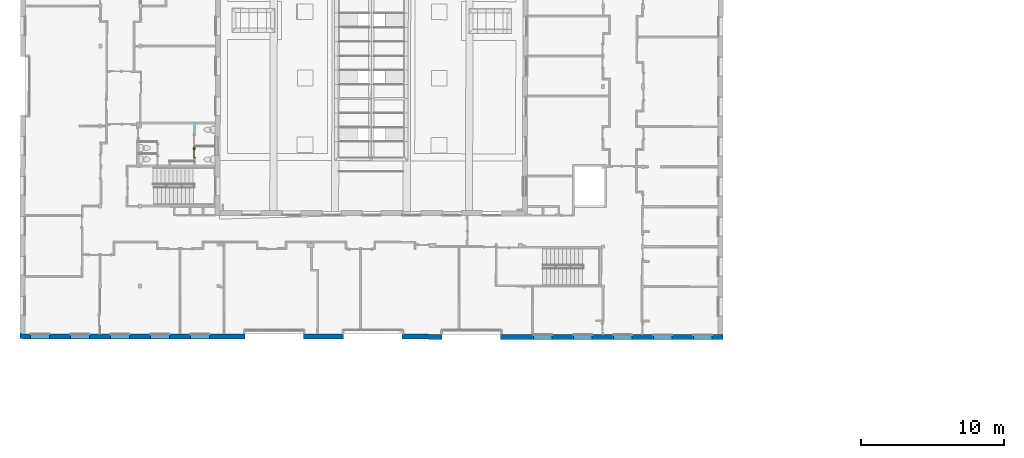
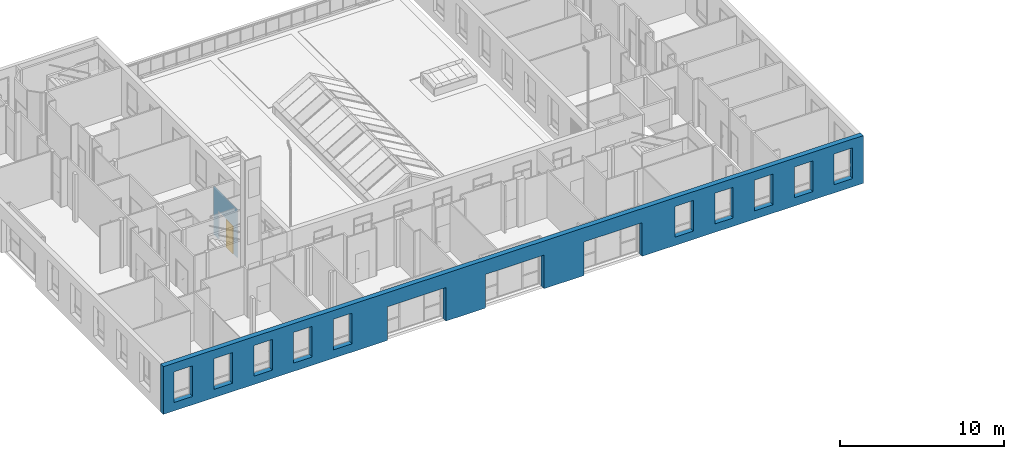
# One storey, part 92 of 101: 1 door, 1 wall, 2 openings, plus 1 element that does not belong to this part.
"""IFC2X3 building model written with IfcOpenShell, lengths in metres."""

import ifcopenshell
import ifcopenshell.guid

model = None  # the IFC model being written
_history = None  # IfcOwnerHistory: only IFC2X3 demands one
_inside = {}  # id of a spatial element -> (the spatial element, [elements in it])
_under = {}  # id of a project, library or spatial element -> (it, [spatial elements below it])
_declared = {}  # id of a project -> (the project, [libraries it declares])
_typed = {}  # id of a type object -> (the type object, [elements of that type])
_made_of = {}  # id of a material, layer set ... -> (it, [elements and type objects made of it])


def new_model(schema):
    """Start an empty IFC model of exactly this schema.

    Asked for "IFC4X3", IfcOpenShell would pick the latest addendum, in which some entities
    have other attributes; the version numbers below select the first issue.
    IFC2X3 requires an IfcOwnerHistory on every rooted entity: one is made here for all.
    """
    global model, _history
    if schema == "IFC4X3":
        model = ifcopenshell.file(schema_version=(4, 3, 0, 0))
    else:
        model = ifcopenshell.file(schema=schema)
    _inside.clear()
    _under.clear()
    _declared.clear()
    _typed.clear()
    _made_of.clear()
    _history = None
    if model.schema == "IFC2X3":
        org = make("IfcOrganization", Name="unknown")
        user = make(
            "IfcPersonAndOrganization",
            ThePerson=make("IfcPerson", FamilyName="unknown"),
            TheOrganization=org,
        )
        app = make(
            "IfcApplication",
            ApplicationDeveloper=org,
            Version="unknown",
            ApplicationFullName="unknown",
            ApplicationIdentifier="unknown",
        )
        _history = make(
            "IfcOwnerHistory",
            OwningUser=user,
            OwningApplication=app,
            ChangeAction="ADDED",
            CreationDate=0,
        )
    return model


def make(cls, **values):
    """One entity of the class cls with the attributes given. An attribute that is None is left unset."""
    return model.create_entity(
        cls, **{name: value for name, value in values.items() if value is not None}
    )


def entity(cls, *values):
    """Any entity or typed value of the class cls, its attributes in the order of the schema. None: left unset."""
    e = model.create_entity(cls)
    for i, value in enumerate(values):
        if value is not None:
            e[i] = value
    return e


def rooted(cls, **values):
    """An entity with a GlobalId (a new one), such as an element, a storey or a relation."""
    return make(cls, GlobalId=ifcopenshell.guid.new(), OwnerHistory=_history, **values)


def si_unit(unit_type, name, prefix=None):
    """IfcSIUnit, for example si_unit("LENGTHUNIT", "METRE", prefix="MILLI")."""
    return make("IfcSIUnit", UnitType=unit_type, Prefix=prefix, Name=name)


def converted_unit(unit_type, name, factor, base, dimensions=None, offset=None):
    """IfcConversionBasedUnit, such as the inch: factor (a typed value) times the base unit."""
    return make(
        "IfcConversionBasedUnit"
        if offset is None
        else "IfcConversionBasedUnitWithOffset",
        ConversionOffset=offset,
        Dimensions=None
        if dimensions is None
        else entity("IfcDimensionalExponents", *dimensions),
        UnitType=unit_type,
        Name=name,
        ConversionFactor=make(
            "IfcMeasureWithUnit", ValueComponent=factor, UnitComponent=base
        ),
    )


def derived_unit(unit_type, elements):
    """IfcDerivedUnit: a product of units, each with its exponent."""
    return make(
        "IfcDerivedUnit",
        Elements=[
            make("IfcDerivedUnitElement", Unit=unit, Exponent=power)
            for unit, power in elements
        ],
        UnitType=unit_type,
    )


def assignment(units):
    """IfcUnitAssignment: the units of a project."""
    return None if units is None else make("IfcUnitAssignment", Units=units)


def point(xyz):
    """IfcCartesianPoint."""
    return None if xyz is None else make("IfcCartesianPoint", Coordinates=xyz)


def direction(xyz):
    """IfcDirection."""
    return None if xyz is None else make("IfcDirection", DirectionRatios=xyz)


def frame(location, z_axis=None, x_axis=None):
    """IfcAxis2Placement3D, a coordinate frame: its origin and axes. An axis left out is left unset."""
    return make(
        "IfcAxis2Placement3D",
        Location=point(location),
        Axis=direction(z_axis),
        RefDirection=direction(x_axis),
    )


def frame_2d(location, x_axis=None):
    """IfcAxis2Placement2D, a coordinate frame in the plane: its origin and x axis."""
    return make(
        "IfcAxis2Placement2D", Location=point(location), RefDirection=direction(x_axis)
    )


def origin():
    """The frame at (0, 0, 0) with its axes left unset."""
    return frame((0.0, 0.0, 0.0))


def place(relative_to, where):
    """IfcLocalPlacement: puts the frame where relative to a parent placement (None: the world)."""
    return make(
        "IfcLocalPlacement", PlacementRelTo=relative_to, RelativePlacement=where
    )


def context(
    kind, dimensions, precision=None, world=None, true_north=None, identifier=None
):
    """IfcGeometricRepresentationContext, for example the 3D "Model" context."""
    return make(
        "IfcGeometricRepresentationContext",
        ContextIdentifier=identifier,
        ContextType=kind,
        CoordinateSpaceDimension=dimensions,
        Precision=precision,
        WorldCoordinateSystem=world,
        TrueNorth=true_north,
    )


def subcontext(parent, identifier, kind, view, scale=None):
    """IfcGeometricRepresentationSubContext, for example "Body" below "Model"."""
    return make(
        "IfcGeometricRepresentationSubContext",
        ContextIdentifier=identifier,
        ContextType=kind,
        ParentContext=parent,
        TargetScale=scale,
        TargetView=view,
    )


def project(units=None, contexts=None):
    """IfcProject with its units and contexts."""
    return rooted(
        "IfcProject",
        Name="project",
        RepresentationContexts=contexts,
        UnitsInContext=assignment(units),
    )


def spatial(cls, under=None, at=None, **own):
    """A site, building, storey or space (cls), placed at a placement, below another one or the project."""
    s = rooted(cls, ObjectPlacement=at, **own)
    if under is not None:
        _under.setdefault(under.id(), (under, []))[1].append(s)
    return s


def profile(cls, at=None, kind="AREA", **sizes):
    """A parametric profile (cls). Its sizes go by their IFC names, for example OverallWidth=200.0."""
    return make(cls, ProfileType=kind, Position=at, **sizes)


def rectangle(**sizes):
    """IfcRectangleProfileDef."""
    return profile("IfcRectangleProfileDef", **sizes)


def extrude(swept, where, along, depth):
    """IfcExtrudedAreaSolid: the profile swept, set in the frame where, extruded along a direction by depth."""
    return make(
        "IfcExtrudedAreaSolid",
        SweptArea=swept,
        Position=where,
        ExtrudedDirection=direction(along),
        Depth=depth,
    )


def faces_of(points, faces, orient=None, outer=None):
    """IfcFace entities. A face is a list of loops; a loop is a list of indices into points, from 0.

    orient and outer hold one flag for each loop. By default every Orientation is true, the
    first loop of a face is its IfcFaceOuterBound and the others are IfcFaceBound.
    """
    made = []
    for i, loops in enumerate(faces):
        bounds = []
        for j, loop in enumerate(loops):
            is_outer = j == 0 if outer is None else outer[i][j]
            bounds.append(
                make(
                    "IfcFaceOuterBound" if is_outer else "IfcFaceBound",
                    Bound=make("IfcPolyLoop", Polygon=[points[k] for k in loop]),
                    Orientation=True if orient is None else orient[i][j],
                )
            )
        made.append(make("IfcFace", Bounds=bounds))
    return made


def faceted_brep(points, faces, orient=None, outer=None, voids=None):
    """IfcFacetedBrep: a solid bounded by flat faces; with voids (closed shells), ...WithVoids."""
    shared = [point(p) for p in points]
    hull = make("IfcClosedShell", CfsFaces=faces_of(shared, faces, orient, outer))
    if voids is None:
        return make("IfcFacetedBrep", Outer=hull)
    return make(
        "IfcFacetedBrepWithVoids",
        Outer=hull,
        Voids=[
            make(cls, CfsFaces=faces_of(shared, fs, o, b)) for cls, fs, o, b in voids
        ],
    )


def shape(context_of_items, identifier, shape_type, items):
    """IfcShapeRepresentation: the items that make up one representation, for example the "Body"."""
    return make(
        "IfcShapeRepresentation",
        ContextOfItems=context_of_items,
        RepresentationIdentifier=identifier,
        RepresentationType=shape_type,
        Items=items,
    )


def source(mapping_origin, context_of_items, identifier, shape_type, items):
    """IfcRepresentationMap: a shape defined once, which mapped items show again and again."""
    return make(
        "IfcRepresentationMap",
        MappingOrigin=mapping_origin,
        MappedRepresentation=shape(context_of_items, identifier, shape_type, items),
    )


def transform(
    local_origin,
    x_axis=None,
    y_axis=None,
    z_axis=None,
    scale=None,
    scale2=None,
    scale3=None,
    uniform=True,
):
    """IfcCartesianTransformationOperator3D, or its non-uniform kind. x_axis, y_axis, z_axis: its Axis1, 2, 3."""
    if uniform:
        return make(
            "IfcCartesianTransformationOperator3D",
            Axis1=direction(x_axis),
            Axis2=direction(y_axis),
            LocalOrigin=point(local_origin),
            Scale=scale,
            Axis3=direction(z_axis),
        )
    return make(
        "IfcCartesianTransformationOperator3DnonUniform",
        Axis1=direction(x_axis),
        Axis2=direction(y_axis),
        LocalOrigin=point(local_origin),
        Scale=scale,
        Axis3=direction(z_axis),
        Scale2=scale2,
        Scale3=scale3,
    )


def mapped(mapping_source, mapping_target):
    """IfcMappedItem: shows the shape of a source again, moved by a transform."""
    return make(
        "IfcMappedItem", MappingSource=mapping_source, MappingTarget=mapping_target
    )


def material(Name=None, Category=None):
    """IfcMaterial."""
    return make("IfcMaterial", Name=Name, Category=Category)


def material_list(materials):
    """IfcMaterialList."""
    return make("IfcMaterialList", Materials=materials)


def layer(
    of_material, thickness, ventilated=None, Name=None, Category=None, Priority=None
):
    """IfcMaterialLayer: one layer of a wall or slab, of a material (None: an air gap)."""
    return make(
        "IfcMaterialLayer",
        Material=of_material,
        LayerThickness=thickness,
        IsVentilated=ventilated,
        Name=Name,
        Category=Category,
        Priority=Priority,
    )


def layer_set(layers, Name=None):
    """IfcMaterialLayerSet."""
    return make("IfcMaterialLayerSet", MaterialLayers=layers, LayerSetName=Name)


def layer_usage(for_layer_set, set_direction, sense, offset, extent=None):
    """IfcMaterialLayerSetUsage: how a layer set lies in its element."""
    return make(
        "IfcMaterialLayerSetUsage",
        ForLayerSet=for_layer_set,
        LayerSetDirection=set_direction,
        DirectionSense=sense,
        OffsetFromReferenceLine=offset,
        ReferenceExtent=extent,
    )


def made_of(thing, what):
    """Note that an element or type object is made of a material, layer set ...; save() writes the relation."""
    if what is not None:
        _made_of.setdefault(what.id(), (what, []))[1].append(thing)
    return thing


def type_object(cls, material=None, **own):
    """A type object (cls), such as IfcWallType, which elements share."""
    return made_of(rooted(cls, **own), material)


def type_shapes(of_type, sources):
    """Give a type object the sources (RepresentationMaps) that its elements show as mapped items."""
    of_type.RepresentationMaps = sources


def element(
    cls,
    number,
    at=None,
    inside=None,
    cuts=None,
    type_object=None,
    material=None,
    context=None,
    identifier="Body",
    shape_type=None,
    held_by="IfcProductDefinitionShape",
    body=None,
    shapes=None,
    **own,
):
    """One element of the class cls, such as IfcWall. Its Tag is "e" and its number.

    at: its placement. inside: the storey or other place that contains it. cuts: it is an
    opening in that element (IfcRelVoidsElement). A single representation is given by context,
    identifier, shape_type and body (its items); several are given by shapes. held_by: the class
    of the entity that holds the representations. save() writes the other relations.
    """
    e = rooted(cls, Tag="e%d" % number, ObjectPlacement=at, **own)
    if body is not None:
        shapes = [shape(context, identifier, shape_type, body)]
    if shapes is not None:
        e.Representation = make(held_by, Representations=shapes)
    if inside is not None:
        _inside.setdefault(inside.id(), (inside, []))[1].append(e)
    if cuts is not None:
        rooted(
            "IfcRelVoidsElement", RelatingBuildingElement=cuts, RelatedOpeningElement=e
        )
    if type_object is not None:
        _typed.setdefault(type_object.id(), (type_object, []))[1].append(e)
    return made_of(e, material)


def fill(opening, filler):
    """IfcRelFillsElement: the door or window that sits in an opening."""
    return rooted(
        "IfcRelFillsElement",
        RelatingOpeningElement=opening,
        RelatedBuildingElement=filler,
    )


def aggregate(whole, parts):
    """IfcRelAggregates: a whole, such as a stair, and the parts it consists of."""
    return rooted("IfcRelAggregates", RelatingObject=whole, RelatedObjects=parts)


def save(model, path):
    """Write the relations noted so far, then the file.

    IfcRelAggregates (storeys below a building ...), IfcRelContainedInSpatialStructure (elements
    in a storey), IfcRelDefinesByType, IfcRelAssociatesMaterial and IfcRelDeclares: one each for
    every whole, place, type object, material and project.
    """
    for whole, parts in _under.values():
        aggregate(whole, parts)
    for where, things in _inside.values():
        rooted(
            "IfcRelContainedInSpatialStructure",
            RelatedElements=things,
            RelatingStructure=where,
        )
    for kind, things in _typed.values():
        rooted("IfcRelDefinesByType", RelatedObjects=things, RelatingType=kind)
    for what, things in _made_of.values():
        rooted("IfcRelAssociatesMaterial", RelatedObjects=things, RelatingMaterial=what)
    for by, libraries in _declared.values():
        rooted("IfcRelDeclares", RelatingContext=by, RelatedDefinitions=libraries)
    model.write(path)


model = new_model("IFC2X3")

# Units and contexts
model_context = context("Model", 3, precision=1e-05, world=origin(), true_north=direction((6.123233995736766e-17, 1.0)))
body_context = subcontext(model_context, "Body", "Model", "MODEL_VIEW")
ifc_project = project(units=[si_unit("LENGTHUNIT", "METRE"), si_unit("AREAUNIT", "SQUARE_METRE"), converted_unit("PLANEANGLEUNIT", "DEGREE", entity("IfcPlaneAngleMeasure", 0.017453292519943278), si_unit("PLANEANGLEUNIT", "RADIAN"), dimensions=[0, 0, 0, 0, 0, 0, 0]), derived_unit("THERMALTRANSMITTANCEUNIT", [(si_unit("MASSUNIT", "GRAM", prefix="KILO"), 1), (si_unit("THERMODYNAMICTEMPERATUREUNIT", "KELVIN"), -1), (si_unit("TIMEUNIT", "SECOND"), -3)])], contexts=[model_context])

# Site, building, storey
site_placement = place(None, frame((1253.6752467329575, 2072.143113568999, 91.49999999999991), z_axis=(0.0, 0.0, 1.0), x_axis=(0.7237211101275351, 0.6900925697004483, 0.0)))
site = spatial("IfcSite", under=ifc_project, at=site_placement, Name="Surface", CompositionType="ELEMENT")
building_placement = place(site_placement, origin())
building = spatial("IfcBuilding", under=site, at=building_placement, CompositionType="ELEMENT")
storey_placement = place(building_placement, origin())
storey = spatial("IfcBuildingStorey", under=building, at=storey_placement, Name="0- Rdc", CompositionType="ELEMENT", Elevation=-5.764692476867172e-13)

# Wall
ifc_material_1 = material(Name="OMD_Béton blanc")
ifc_layer_1 = layer(ifc_material_1, 0.35)
ifc_layer_set_1 = layer_set([ifc_layer_1], Name="Mur de base:MUR 35")
wall_type_1 = type_object("IfcWallType", Name="Mur de base:MUR 35", PredefinedType="STANDARD", material=ifc_layer_set_1)
wall_1_placement = place(storey_placement, frame((179.42358522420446, -29.603421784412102, 0.0), z_axis=(0.0, 0.0, 1.0), x_axis=(-0.7228702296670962, 0.6909838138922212, 0.0)))
element("IfcWall", 1, at=wall_1_placement, inside=storey, type_object=wall_type_1, Name="Mur de base:MUR 35", ObjectType="Mur de base:MUR 35", context=body_context, shape_type="Brep", body=[
    faceted_brep([(0.7585219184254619, -0.1749999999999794, 0.6200000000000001), (0.7585219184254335, -0.17499999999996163, 2.8999999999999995), (2.0582178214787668, -0.17499999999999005, 2.8999999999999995), (2.058217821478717, -0.17499999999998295, 0.6200000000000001), (3.5499999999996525, -0.17499999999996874, 0.6200000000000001), (3.549999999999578, -0.1749999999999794, 2.8999999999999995), (4.849695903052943, -0.1749999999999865, 2.8999999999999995), (4.849695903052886, -0.17499999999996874, 0.6200000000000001), (6.349999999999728, -0.17499999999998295, 0.6200000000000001), (6.349999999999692, -0.17499999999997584, 2.8999999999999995), (7.649695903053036, -0.17499999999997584, 2.8999999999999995), (7.6496959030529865, -0.17499999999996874, 0.6200000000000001), (9.149999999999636, -0.1749999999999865, 0.6200000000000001), (9.149999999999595, -0.1749999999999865, 2.8999999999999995), (10.449695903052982, -0.1749999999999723, 2.8999999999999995), (10.449695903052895, -0.17499999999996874, 0.6200000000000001), (11.949999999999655, -0.1749999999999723, 0.6200000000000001), (11.949999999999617, -0.17499999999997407, 2.8999999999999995), (13.249695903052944, -0.17499999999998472, 2.8999999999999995), (13.249695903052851, -0.17499999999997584, 0.6200000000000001), (35.9499999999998, -0.17499999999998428, 0.6200000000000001), (35.94999999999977, -0.17499999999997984, 2.8999999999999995), (37.249695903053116, -0.1749999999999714, 2.8999999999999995), (37.24969590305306, -0.17499999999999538, 0.6200000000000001), (38.749999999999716, -0.1749999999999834, 0.6200000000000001), (38.7499999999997, -0.17499999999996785, 2.8999999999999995), (40.04969590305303, -0.17499999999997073, 2.8999999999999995), (40.049695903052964, -0.1749999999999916, 0.6200000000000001), (41.54999999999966, -0.17499999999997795, 0.6200000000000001), (41.54999999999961, -0.17499999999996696, 2.8999999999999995), (42.84969590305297, -0.17499999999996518, 2.8999999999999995), (42.84969590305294, -0.17499999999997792, 0.6200000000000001), (44.35043183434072, -0.17499999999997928, 0.6200000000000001), (44.350431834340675, -0.1749999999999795, 2.8999999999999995), (45.650127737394, -0.1749999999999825, 2.8999999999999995), (45.650127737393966, -0.17499999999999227, 0.6200000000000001), (47.14999999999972, -0.17499999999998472, 0.6200000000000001), (47.14999999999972, -0.17499999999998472, 2.8999999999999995), (48.44969590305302, -0.17499999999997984, 2.8999999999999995), (48.44969590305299, -0.17499999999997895, 0.6200000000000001), (49.198559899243, -0.1749999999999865, 3.5499999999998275), (48.84855988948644, -0.1749999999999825, 3.5499999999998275), (43.62499999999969, -0.1749999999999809, 3.5499999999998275), (43.5749999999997, -0.1749999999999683, 3.5499999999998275), (8.44999999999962, -0.1749999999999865, 3.5499999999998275), (8.349999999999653, -0.1749999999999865, 3.5499999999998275), (5.699999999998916, -0.17499999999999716, 3.5499999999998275), (5.599999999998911, -0.17499999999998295, 3.5499999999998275), (0.3500000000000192, -0.1749999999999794, 3.5499999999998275), (0.0, -0.17499999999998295, 3.5499999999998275), (0.0, -0.17499999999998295, 0.0), (0.3500000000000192, -0.1749999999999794, 0.0), (5.599999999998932, -0.17499999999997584, 0.0), (5.599999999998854, -0.17499999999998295, 2.0850000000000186), (5.699999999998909, -0.1749999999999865, 2.0850000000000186), (5.699999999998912, -0.1749999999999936, 0.0), (8.349999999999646, -0.1749999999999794, 0.0), (8.3499999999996, -0.17499999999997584, 2.0850000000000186), (8.44999999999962, -0.1749999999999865, 2.0850000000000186), (8.44999999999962, -0.1749999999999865, 0.0), (15.549999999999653, -0.17499999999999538, 0.0), (15.549999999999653, -0.17499999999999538, 2.4999999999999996), (19.649999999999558, -0.17499999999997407, 2.4999999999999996), (19.649999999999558, -0.17499999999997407, 0.0), (22.449999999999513, -0.1749999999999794, 0.0), (22.449999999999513, -0.1749999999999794, 2.4999999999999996), (26.5499999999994, -0.17499999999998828, 2.4999999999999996), (26.5499999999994, -0.17499999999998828, 0.0), (29.34999999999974, -0.17499999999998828, 0.0), (29.34999999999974, -0.17499999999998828, 2.4999999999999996), (33.44999999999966, -0.17499999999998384, 2.4999999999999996), (33.44999999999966, -0.17499999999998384, 0.0), (43.5749999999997, -0.1749999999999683, 0.0), (43.62499999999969, -0.1749999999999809, 0.0), (48.84855988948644, -0.1749999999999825, 0.0), (49.198559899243, -0.1749999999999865, 0.0), (0.7585219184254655, 0.17500000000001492, 2.8999999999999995), (0.7585219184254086, 0.17500000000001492, 0.6200000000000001), (2.0582178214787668, 0.17500000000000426, 0.6200000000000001), (2.058217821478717, 0.17499999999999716, 2.8999999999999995), (3.549999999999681, 0.17500000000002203, 2.8999999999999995), (3.549999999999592, 0.17500000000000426, 0.6200000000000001), (4.849695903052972, 0.17500000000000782, 0.6200000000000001), (4.849695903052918, 0.17500000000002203, 2.8999999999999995), (6.349999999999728, 0.17500000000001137, 2.8999999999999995), (6.3499999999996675, 0.17500000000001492, 0.6200000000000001), (7.649695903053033, 0.17500000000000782, 0.6200000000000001), (7.649695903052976, 0.17500000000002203, 2.8999999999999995), (9.149999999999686, 0.17500000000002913, 2.8999999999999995), (9.149999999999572, 0.17500000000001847, 0.6200000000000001), (10.449695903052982, 0.17500000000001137, 0.6200000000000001), (10.449695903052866, 0.1750000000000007, 2.8999999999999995), (11.949999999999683, 0.1750000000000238, 2.8999999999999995), (11.949999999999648, 0.17500000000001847, 0.6200000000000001), (13.249695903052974, 0.17500000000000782, 0.6200000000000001), (13.249695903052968, 0.17500000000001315, 2.8999999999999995), (35.949999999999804, 0.17500000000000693, 2.8999999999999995), (35.949999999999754, 0.17500000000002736, 0.6200000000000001), (37.24969590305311, 0.1750000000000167, 0.6200000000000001), (37.24969590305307, 0.17500000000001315, 2.8999999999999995), (38.74999999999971, 0.17500000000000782, 2.8999999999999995), (38.74999999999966, 0.17500000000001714, 0.6200000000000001), (40.049695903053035, 0.17500000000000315, 0.6200000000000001), (40.04969590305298, 0.17500000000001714, 2.8999999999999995), (41.549999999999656, 0.17500000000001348, 2.8999999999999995), (41.54999999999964, 0.1750000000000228, 0.6200000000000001), (42.84969590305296, 0.17500000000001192, 0.6200000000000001), (42.8496959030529, 0.17500000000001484, 2.8999999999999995), (44.35043183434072, 0.17500000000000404, 2.8999999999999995), (44.350431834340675, 0.17500000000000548, 0.6200000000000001), (45.65012773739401, 0.17499999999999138, 0.6200000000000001), (45.65012773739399, 0.17500000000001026, 2.8999999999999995), (47.14999999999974, 0.17500000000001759, 2.8999999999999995), (47.14999999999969, 0.17500000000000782, 0.6200000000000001), (48.449695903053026, 0.17500000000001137, 0.6200000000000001), (48.44969590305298, 0.17500000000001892, 2.8999999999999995), (0.0, 0.17500000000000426, 3.5499999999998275), (49.198642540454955, 0.1750000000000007, 3.5499999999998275), (49.19864254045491, 0.1750000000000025, 0.0), (33.44999999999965, 0.17500000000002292, 0.0), (33.44999999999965, 0.17500000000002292, 2.4999999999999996), (29.34999999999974, 0.1749999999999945, 2.4999999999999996), (29.34999999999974, 0.1749999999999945, 0.0), (26.5499999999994, 0.17500000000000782, 0.0), (26.5499999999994, 0.17500000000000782, 2.4999999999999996), (22.449999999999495, 0.17500000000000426, 2.4999999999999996), (22.449999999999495, 0.17500000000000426, 0.0), (19.649999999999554, 0.1750000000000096, 0.0), (19.649999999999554, 0.1750000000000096, 2.4999999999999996), (15.549999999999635, 0.17500000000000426, 2.4999999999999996), (15.549999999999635, 0.17500000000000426, 0.0), (0.3500000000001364, 0.17500000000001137, 0.0), (0.0, 0.17500000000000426, 0.0), (5.5999999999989, -0.1624999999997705, 0.0), (5.5999999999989, -0.1624999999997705, 2.0850000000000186), (5.699999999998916, -0.1624999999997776, 2.0850000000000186), (5.699999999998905, -0.1624999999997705, 0.0), (8.349999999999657, -0.16249999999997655, 0.0), (8.349999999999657, -0.16249999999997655, 2.0850000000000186), (8.44999999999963, -0.1624999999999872, 2.0850000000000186), (8.44999999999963, -0.1624999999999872, 0.0)], [[[0, 1, 2, 3], [4, 5, 6, 7], [8, 9, 10, 11], [12, 13, 14, 15], [16, 17, 18, 19], [20, 21, 22, 23], [24, 25, 26, 27], [28, 29, 30, 31], [32, 33, 34, 35], [36, 37, 38, 39], [40, 41, 42, 43, 44, 45, 46, 47, 48, 49, 50, 51, 52, 53, 54, 55, 56, 57, 58, 59, 60, 61, 62, 63, 64, 65, 66, 67, 68, 69, 70, 71, 72, 73, 74, 75]], [[76, 77, 78, 79], [80, 81, 82, 83], [84, 85, 86, 87], [88, 89, 90, 91], [92, 93, 94, 95], [96, 97, 98, 99], [100, 101, 102, 103], [104, 105, 106, 107], [108, 109, 110, 111], [112, 113, 114, 115], [116, 117, 118, 119, 120, 121, 122, 123, 124, 125, 126, 127, 128, 129, 130, 131, 132]], [[49, 48, 47, 46, 45, 44, 43, 42, 41, 40, 117, 116]], [[50, 49, 116, 132]], [[40, 75, 118, 117]], [[133, 134, 53, 52]], [[135, 136, 55, 54]], [[134, 135, 54, 53]], [[134, 133, 136, 135]], [[137, 138, 57, 56]], [[139, 140, 59, 58]], [[138, 139, 58, 57]], [[138, 137, 140, 139]], [[0, 77, 76, 1]], [[1, 76, 79, 2]], [[2, 79, 78, 3]], [[77, 0, 3, 78]], [[4, 81, 80, 5]], [[5, 80, 83, 6]], [[6, 83, 82, 7]], [[81, 4, 7, 82]], [[8, 85, 84, 9]], [[9, 84, 87, 10]], [[10, 87, 86, 11]], [[85, 8, 11, 86]], [[12, 89, 88, 13]], [[13, 88, 91, 14]], [[14, 91, 90, 15]], [[89, 12, 15, 90]], [[16, 93, 92, 17]], [[17, 92, 95, 18]], [[18, 95, 94, 19]], [[93, 16, 19, 94]], [[20, 97, 96, 21]], [[21, 96, 99, 22]], [[22, 99, 98, 23]], [[97, 20, 23, 98]], [[24, 101, 100, 25]], [[25, 100, 103, 26]], [[26, 103, 102, 27]], [[101, 24, 27, 102]], [[28, 105, 104, 29]], [[29, 104, 107, 30]], [[30, 107, 106, 31]], [[105, 28, 31, 106]], [[32, 109, 108, 33]], [[33, 108, 111, 34]], [[34, 111, 110, 35]], [[109, 32, 35, 110]], [[36, 113, 112, 37]], [[37, 112, 115, 38]], [[38, 115, 114, 39]], [[113, 36, 39, 114]], [[69, 68, 122, 121]], [[71, 70, 120, 119]], [[118, 75, 74, 73, 72, 71, 119]], [[122, 68, 67, 123]], [[69, 121, 120, 70]], [[65, 64, 126, 125]], [[67, 66, 124, 123]], [[126, 64, 63, 127]], [[65, 125, 124, 66]], [[61, 60, 130, 129]], [[63, 62, 128, 127]], [[50, 132, 131, 130, 60, 59, 140, 137, 56, 55, 136, 133, 52, 51]], [[61, 129, 128, 62]]], outer=[[False, False, False, False, False, False, False, False, False, False, True], [False, False, False, False, False, False, False, False, False, False, True], [True], [True], [True], [True], [True], [True], [True], [True], [True], [True], [True], [True], [True], [True], [True], [True], [True], [True], [True], [True], [True], [True], [True], [True], [True], [True], [True], [True], [True], [True], [True], [True], [True], [True], [True], [True], [True], [True], [True], [True], [True], [True], [True], [True], [True], [True], [True], [True], [True], [True], [True], [True], [True], [True], [True], [True], [True], [True], [True], [True], [True], [True], [True], [True]]),
])

# Wall, openings, door
ifc_layer_2 = layer(ifc_material_1, 0.07)
ifc_layer_set_2 = layer_set([ifc_layer_2], Name="Mur de base:MUR 7")
ifc_layer_usage = layer_usage(ifc_layer_set_2, "AXIS2", "NEGATIVE", 0.035)
wall_type_2 = type_object("IfcWallType", Name="Mur de base:MUR 7", PredefinedType="STANDARD", material=ifc_layer_set_2)
wall_2_placement = place(storey_placement, frame((162.9738427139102, 6.698399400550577, 0.0), z_axis=(0.0, 0.0, 1.0), x_axis=(-0.6909838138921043, -0.7228702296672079, 0.0)))
wall_2 = element("IfcWallStandardCase", 2, at=wall_2_placement, inside=storey, type_object=wall_type_2, material=ifc_layer_usage, Name="Mur de base:MUR 7", ObjectType="Mur de base:MUR 7", context=body_context, shape_type="SweptSolid", body=[
    extrude(rectangle(XDim=2.884999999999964, YDim=0.06999999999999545, at=frame_2d((1.442499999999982, 1.6202317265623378e-15), x_axis=(-1.0, 0.0))), origin(), (0.0, 0.0, 1.0), 3.5499999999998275),
])
opening_1_placement = place(wall_2_placement, frame((1.5275000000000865, 0.0349999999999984, 0.0)))
element("IfcOpeningElement", 3, at=opening_1_placement, cuts=wall_2, Name="OMD_Porte 1V tunnel:80x204:1", ObjectType="Opening", context=body_context, shape_type="SweptSolid", body=[
    extrude(rectangle(XDim=2.0850000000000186, YDim=0.9349999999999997, at=frame_2d((1.0425000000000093, 0.46749999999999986), x_axis=(1.0, 0.0))), frame((0.0, 0.0, 0.0), z_axis=(0.0, -1.0, 0.0), x_axis=(0.0, 0.0, 1.0)), (0.0, 0.0, 1.0), 0.06999999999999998),
])
opening_2_placement = place(wall_2_placement, frame((2.402500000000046, 0.03500000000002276, 0.0)))
opening_2 = element("IfcOpeningElement", 4, at=opening_2_placement, cuts=wall_2, Name="OMD_Porte 1V tunnel:70X204:1", ObjectType="Opening", context=body_context, shape_type="SweptSolid", body=[
    extrude(rectangle(XDim=2.0850000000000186, YDim=0.8349999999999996, at=frame_2d((1.0425000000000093, 0.4174999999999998), x_axis=(1.0, 0.0))), frame((0.0, 0.0, 0.0), z_axis=(0.0, -1.0, 0.0), x_axis=(0.0, 0.0, 1.0)), (0.0, 0.0, 1.0), 0.06999999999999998),
])
ifc_material_2 = material(Name="Porte - Poignée")
ifc_material_3 = material(Name="OMD_Peinture mur")
ifc_material_4 = material(Name="OMD_BLEU T1 23 25-SIKKKENS")
ifc_material_list = material_list([ifc_material_2, ifc_material_3, ifc_material_4])
door_style = type_object("IfcDoorStyle", Name="OMD_Porte 1V tunnel:70X204", ConstructionType="NOTDEFINED", OperationType="NOTDEFINED", ParameterTakesPrecedence=False, Sizeable=False, material=ifc_material_list)
shared_shape = source(origin(), body_context, "Body", "Brep", [
    faceted_brep([(0.21297470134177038, 0.0050000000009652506, 1.0077804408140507), (0.2090000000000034, 0.0050000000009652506, 1.0069999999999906), (0.20899999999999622, 0.0050000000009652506, 0.9929999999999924), (0.21297470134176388, 0.0050000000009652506, 0.9922195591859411), (0.21702529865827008, 0.0050000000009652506, 0.9922195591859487), (0.2210000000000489, 0.0050000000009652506, 0.9930000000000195), (0.2210000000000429, 0.0050000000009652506, 1.0069999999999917), (0.21702529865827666, 0.0050000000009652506, 1.007780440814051), (0.2210000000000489, 0.027485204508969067, 0.9930000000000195), (0.221000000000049, 0.027485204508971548, 1.0069999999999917), (0.2170252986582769, 0.02913157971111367, 1.007780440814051), (0.23083890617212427, 0.04294518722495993, 1.007780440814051), (0.22916109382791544, 0.046995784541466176, 1.0077804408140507), (0.21297470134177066, 0.03080939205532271, 1.0077804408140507), (0.32068474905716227, 0.03646731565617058, 1.0077804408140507), (0.3235489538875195, 0.039331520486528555, 1.0077804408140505), (0.31588468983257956, 0.04699578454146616, 1.0077804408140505), (0.31420687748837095, 0.0429451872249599, 1.0077804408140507), (0.20900000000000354, 0.03245576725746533, 1.0069999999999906), (0.20900000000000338, 0.03245576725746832, 0.9929999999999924), (0.21297470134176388, 0.03080939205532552, 0.9922195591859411), (0.2291610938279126, 0.046995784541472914, 0.9922195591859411), (0.23083890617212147, 0.04294518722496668, 0.9922195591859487), (0.21702529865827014, 0.029131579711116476, 0.9922195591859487), (0.3235489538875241, 0.03933152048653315, 0.9922195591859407), (0.3206847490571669, 0.0364673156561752, 0.9922195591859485), (0.3142068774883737, 0.04294518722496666, 0.9922195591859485), (0.31588468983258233, 0.0469957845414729, 0.9922195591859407), (0.2324852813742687, 0.0389704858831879, 0.9930000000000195), (0.23248528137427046, 0.03897048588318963, 1.0069999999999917), (0.2275147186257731, 0.050970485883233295, 1.0069999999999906), (0.22751471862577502, 0.05097048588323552, 0.9929999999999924), (0.2725228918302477, 0.038970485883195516, 0.9930000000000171), (0.3125605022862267, 0.03897048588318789, 0.9930000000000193), (0.31256050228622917, 0.038970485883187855, 1.0069999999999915), (0.2725228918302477, 0.0389704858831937, 1.0069999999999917), (0.272522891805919, 0.045124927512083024, 1.0078781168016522), (0.31753106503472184, 0.050970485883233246, 1.0069999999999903), (0.27760057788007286, 0.050970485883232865, 1.0069999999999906), (0.3175310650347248, 0.05097048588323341, 0.9929999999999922), (0.26744520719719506, 0.0509704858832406, 0.9929999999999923), (0.2725228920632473, 0.045124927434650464, 0.9921218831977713), (0.31787421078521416, 0.03365677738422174, 0.9930000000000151), (0.32635949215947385, 0.04214205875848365, 0.99299999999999), (0.3263594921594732, 0.04214205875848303, 1.0069999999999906), (0.3178742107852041, 0.03365677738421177, 1.0069999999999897)], [[[0, 1, 2, 3, 4, 5, 6, 7]], [[6, 5, 8, 9]], [[9, 10, 7, 6]], [[10, 11, 12, 13, 0, 7]], [[14, 15, 16, 17]], [[13, 18, 1, 0]], [[2, 1, 18, 19]], [[19, 20, 3, 2]], [[20, 21, 22, 23, 4, 3]], [[24, 25, 26, 27]], [[23, 8, 5, 4]], [[9, 8, 28, 29]], [[29, 11, 10, 9]], [[12, 30, 18, 13]], [[19, 18, 30, 31]], [[31, 21, 20, 19]], [[22, 28, 8, 23]], [[29, 28, 32, 33, 34, 35]], [[11, 35, 36]], [[16, 37, 38]], [[30, 12, 38]], [[38, 12, 36]], [[36, 35, 17]], [[17, 16, 36]], [[35, 11, 29]], [[34, 17, 35]], [[11, 36, 12]], [[38, 36, 16]], [[31, 30, 38, 37, 39, 40]], [[40, 41, 21]], [[41, 40, 27]], [[21, 31, 40]], [[39, 27, 40]], [[41, 32, 22]], [[22, 21, 41]], [[26, 32, 41]], [[28, 22, 32]], [[32, 26, 33]], [[26, 41, 27]], [[42, 25, 24, 43, 44, 15, 14, 45]], [[34, 33, 42, 45]], [[45, 14, 17, 34]], [[15, 44, 37, 16]], [[39, 37, 44, 43]], [[43, 24, 27, 39]], [[25, 42, 33, 26]]]),
    faceted_brep([(0.21297470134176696, -0.034999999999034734, 1.0077804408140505), (0.21702529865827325, -0.034999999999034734, 1.007780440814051), (0.22100000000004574, -0.034999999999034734, 1.006999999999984), (0.221000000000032, -0.034999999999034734, 0.9930000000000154), (0.21702529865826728, -0.034999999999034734, 0.9922195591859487), (0.21297470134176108, -0.034999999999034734, 0.992219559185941), (0.2090000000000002, -0.034999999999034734, 0.992999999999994), (0.20900000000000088, -0.034999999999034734, 1.0069999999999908), (0.2090000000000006, -0.06265095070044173, 1.0069999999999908), (0.21297470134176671, -0.061004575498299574, 1.0077804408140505), (0.22902358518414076, -0.0770534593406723, 1.0077804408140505), (0.23070139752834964, -0.07300286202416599, 1.007780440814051), (0.21702529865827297, -0.059326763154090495, 1.007780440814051), (0.32352181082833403, -0.06938919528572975, 1.0077804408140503), (0.32065760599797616, -0.06652499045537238, 1.0077804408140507), (0.314179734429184, -0.07300286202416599, 1.0077804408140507), (0.31585754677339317, -0.0770534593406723, 1.0077804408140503), (0.22100000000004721, -0.057680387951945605, 1.0069999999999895), (0.22100000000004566, -0.057680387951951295, 0.9930000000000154), (0.21702529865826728, -0.059326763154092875, 0.9922195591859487), (0.23070139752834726, -0.07300286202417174, 0.9922195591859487), (0.22902358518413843, -0.07705345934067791, 0.992219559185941), (0.21297470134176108, -0.061004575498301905, 0.992219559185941), (0.3206576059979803, -0.0665249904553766, 0.9922195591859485), (0.3235218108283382, -0.0693891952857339, 0.9922195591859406), (0.31585754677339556, -0.07705345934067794, 0.9922195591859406), (0.31417973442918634, -0.07300286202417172, 0.9922195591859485), (0.2089999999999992, -0.0626509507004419, 0.9929999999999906), (0.22737720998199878, -0.08102816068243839, 1.0069999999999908), (0.2323477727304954, -0.06902816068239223, 1.0069999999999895), (0.23234777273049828, -0.06902816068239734, 0.9930000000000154), (0.2273772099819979, -0.08102816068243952, 0.9929999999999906), (0.2673076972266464, -0.0810281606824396, 1.0069999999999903), (0.2724405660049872, -0.07518280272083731, 1.0078781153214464), (0.31750392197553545, -0.08102816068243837, 1.0069999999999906), (0.27244056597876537, -0.06902816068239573, 1.0069999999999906), (0.312533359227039, -0.06902816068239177, 1.0069999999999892), (0.31253335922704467, -0.06902816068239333, 0.9930000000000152), (0.2724405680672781, -0.06902816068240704, 0.9930000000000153), (0.2724405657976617, -0.0751828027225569, 0.9921218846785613), (0.3175039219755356, -0.0810281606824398, 0.9929999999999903), (0.2775734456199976, -0.0810281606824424, 0.9929999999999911), (0.3178470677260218, -0.06371445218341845, 1.0069999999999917), (0.32633234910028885, -0.07219973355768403, 1.0069999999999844), (0.32633234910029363, -0.07219973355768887, 0.9929999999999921), (0.31784706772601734, -0.06371445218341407, 0.9930000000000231)], [[[0, 1, 2, 3, 4, 5, 6, 7]], [[8, 9, 0, 7]], [[9, 10, 11, 12, 1, 0]], [[13, 14, 15, 16]], [[12, 17, 2, 1]], [[3, 2, 17, 18]], [[18, 19, 4, 3]], [[19, 20, 21, 22, 5, 4]], [[23, 24, 25, 26]], [[22, 27, 6, 5]], [[7, 6, 27, 8]], [[28, 10, 9, 8]], [[11, 29, 17, 12]], [[18, 17, 29, 30]], [[30, 20, 19, 18]], [[21, 31, 27, 22]], [[8, 27, 31, 28]], [[32, 33, 10]], [[33, 32, 16]], [[10, 28, 32]], [[34, 16, 32]], [[33, 35, 11]], [[11, 10, 33]], [[15, 35, 33]], [[29, 11, 35]], [[35, 15, 36]], [[15, 33, 16]], [[30, 29, 35, 36, 37, 38]], [[20, 38, 39]], [[25, 40, 41]], [[31, 21, 41]], [[41, 21, 39]], [[39, 38, 26]], [[26, 25, 39]], [[38, 20, 30]], [[37, 26, 38]], [[20, 39, 21]], [[41, 39, 25]], [[28, 31, 41, 40, 34, 32]], [[42, 14, 13, 43, 44, 24, 23, 45]], [[43, 13, 16, 34]], [[14, 42, 36, 15]], [[37, 36, 42, 45]], [[45, 23, 26, 37]], [[24, 44, 40, 25]], [[34, 40, 44, 43]]]),
    faceted_brep([(0.2253527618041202, 0.0, 0.8660039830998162), (0.23500000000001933, 0.0, 0.8700000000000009), (0.23500000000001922, 0.0, 1.0800000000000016), (0.22535276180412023, 0.0, 1.0839960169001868), (0.2150000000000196, 0.0, 1.0853589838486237), (0.20464723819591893, 0.0, 1.0839960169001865), (0.19500000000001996, 0.0, 1.0800000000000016), (0.1950000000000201, 0.0, 0.8700000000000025), (0.2046472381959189, 0.0, 0.866003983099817), (0.21500000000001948, 0.0, 0.8646410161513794), (0.22535276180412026, 0.005000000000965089, 1.0839960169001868), (0.23500000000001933, 0.005000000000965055, 1.0800000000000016), (0.23500000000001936, 0.005000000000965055, 0.8700000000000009), (0.2253527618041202, 0.005000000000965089, 0.8660039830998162), (0.2150000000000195, 0.005000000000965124, 0.8646410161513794), (0.20464723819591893, 0.005000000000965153, 0.866003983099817), (0.19500000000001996, 0.005000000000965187, 0.8700000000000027), (0.19500000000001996, 0.005000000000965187, 1.0800000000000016), (0.20464723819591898, 0.005000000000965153, 1.0839960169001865), (0.21500000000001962, 0.005000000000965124, 1.0853589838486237)], [[[0, 1, 2, 3, 4, 5, 6, 7, 8, 9]], [[10, 11, 12, 13, 14, 15, 16, 17, 18, 19]], [[11, 10, 3, 2]], [[3, 10, 19, 4]], [[19, 18, 5, 4]], [[18, 17, 6, 5]], [[7, 6, 17, 16]], [[16, 15, 8, 7]], [[8, 15, 14, 9]], [[14, 13, 0, 9]], [[13, 12, 1, 0]], [[2, 1, 12, 11]]]),
    faceted_brep([(0.22535276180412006, -0.03499999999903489, 0.8660039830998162), (0.23500000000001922, -0.03499999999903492, 0.8700000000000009), (0.23500000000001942, -0.03499999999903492, 1.0800000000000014), (0.2253527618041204, -0.03499999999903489, 1.0839960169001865), (0.21500000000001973, -0.03499999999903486, 1.0853589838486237), (0.20464723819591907, -0.034999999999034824, 1.0839960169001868), (0.19500000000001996, -0.034999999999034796, 1.0800000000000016), (0.19500000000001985, -0.034999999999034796, 0.8700000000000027), (0.2046472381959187, -0.034999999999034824, 0.8660039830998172), (0.21500000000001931, -0.03499999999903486, 0.8646410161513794), (0.2253527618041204, -0.0299999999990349, 1.0839960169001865), (0.23500000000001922, -0.029999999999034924, 1.0800000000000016), (0.23500000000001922, -0.029999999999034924, 0.8700000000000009), (0.22535276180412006, -0.0299999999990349, 0.8660039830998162), (0.21500000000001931, -0.029999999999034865, 0.8646410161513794), (0.2046472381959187, -0.02999999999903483, 0.8660039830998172), (0.19500000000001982, -0.029999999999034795, 0.8700000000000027), (0.19500000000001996, -0.029999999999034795, 1.0800000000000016), (0.20464723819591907, -0.02999999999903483, 1.0839960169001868), (0.21500000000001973, -0.029999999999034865, 1.0853589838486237)], [[[0, 1, 2, 3, 4, 5, 6, 7, 8, 9]], [[10, 11, 12, 13, 14, 15, 16, 17, 18, 19]], [[16, 15, 8, 7]], [[8, 15, 14, 9]], [[14, 13, 0, 9]], [[13, 12, 1, 0]], [[2, 1, 12, 11]], [[11, 10, 3, 2]], [[3, 10, 19, 4]], [[19, 18, 5, 4]], [[18, 17, 6, 5]], [[7, 6, 17, 16]]]),
    faceted_brep([(0.14500000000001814, 0.0, 0.0), (0.8900000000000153, 0.0, 0.0), (0.8900000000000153, -0.029999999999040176, 0.0), (0.14500000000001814, -0.029999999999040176, 0.0), (0.14500000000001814, 0.0, 2.04), (0.14500000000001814, -0.029999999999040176, 2.04), (0.8900000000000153, -0.029999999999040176, 2.04), (0.8900000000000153, 0.0, 2.04)], [[[0, 1, 2, 3]], [[4, 0, 3, 5]], [[5, 3, 2, 6]], [[6, 2, 1, 7]], [[7, 1, 0, 4]], [[4, 5, 6, 7]]]),
    faceted_brep([(0.10000000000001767, -0.02999999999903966, 0.0), (0.10000000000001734, 0.07000000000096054, 0.0), (0.16000000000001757, 0.07000000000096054, 0.0), (0.16000000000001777, 0.0, 0.0), (0.1450000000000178, 0.0, 0.0), (0.1450000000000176, -0.029999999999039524, 0.0), (0.14500000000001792, -0.029999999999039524, 2.04), (0.8900000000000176, -0.029999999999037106, 2.04), (0.8900000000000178, -0.0299999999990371, 0.0), (0.9350000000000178, -0.029999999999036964, 0.0), (0.9350000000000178, -0.029999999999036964, 2.0850000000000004), (0.1000000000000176, -0.02999999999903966, 2.0850000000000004), (0.14500000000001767, 0.0, 2.04), (0.16000000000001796, 0.0, 2.025), (0.875000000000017, 0.0, 2.0249999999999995), (0.875000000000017, 0.0, 0.0), (0.8900000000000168, 0.0, 0.0), (0.8900000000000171, 0.0, 2.0399999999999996), (0.1600000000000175, 0.07000000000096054, 2.025), (0.10000000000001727, 0.07000000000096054, 2.0850000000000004), (0.9350000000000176, 0.07000000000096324, 2.0850000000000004), (0.9350000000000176, 0.07000000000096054, 0.0), (0.8750000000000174, 0.07000000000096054, 0.0), (0.8750000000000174, 0.07000000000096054, 2.0250000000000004)], [[[0, 1, 2, 3, 4, 5]], [[5, 6, 7, 8, 9, 10, 11, 0]], [[4, 12, 6, 5]], [[3, 13, 14, 15, 16, 17, 12, 4]], [[2, 18, 13, 3]], [[1, 19, 20, 21, 22, 23, 18, 2]], [[0, 11, 19, 1]], [[10, 9, 21, 20]], [[9, 8, 16, 15, 22, 21]], [[17, 16, 8, 7]], [[23, 22, 15, 14]], [[12, 17, 7, 6]], [[18, 23, 14, 13]], [[11, 10, 20, 19]]]),
])
type_shapes(door_style, [shared_shape])
door_placement = place(opening_2_placement, frame((-0.9350000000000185, -0.0700000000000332, 0.0)))
door = element("IfcDoor", 5, at=door_placement, inside=storey, type_object=door_style, material=ifc_material_list, Name="OMD_Porte 1V tunnel:70X204", ObjectType="OMD_Porte 1V tunnel:70X204", OverallHeight=2.0850000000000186, OverallWidth=0.8350000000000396, context=body_context, shape_type="MappedRepresentation", body=[
    mapped(shared_shape, transform((0.0, 0.0, 0.0), scale=1.0)),
])
fill(opening_2, door)

save(model, "model.ifc")
